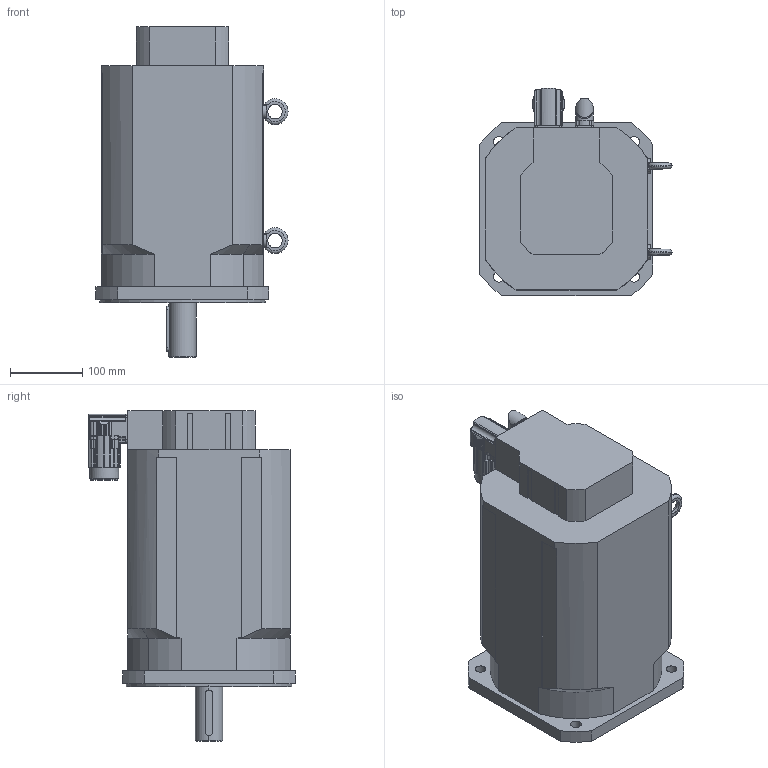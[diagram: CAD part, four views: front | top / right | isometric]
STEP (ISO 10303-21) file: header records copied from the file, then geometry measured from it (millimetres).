
FILE_DESCRIPTION(('STEP AP203'),'2;1');
FILE_NAME('MT8-0400_B.stp','2006-08-28T20:34:11',(''),(''),'2005.2.102','THINKDESIGN','');
FILE_SCHEMA(('CONFIG_CONTROL_DESIGN'));
Length unit declared in the file: millimetre
Bounding box: 266.5 x 287.18 x 459 mm (x, y, z)
Volume: 16722246.6 mm3; surface area: 465960.4 mm2
Topology: 5 solids, 5 shells, 534 faces, 1442 edges, 929 vertices
Faces by surface type: cylinder 259, plane 194, bspline 81
Full cylindrical faces by diameter (mm): 20 x1, 23 x1, 29 x1, 37.8 x1, 40 x1
Entity records: 19287 total; most frequent: CARTESIAN_POINT 5926, ORIENTED_EDGE 2872, DIRECTION 2774, EDGE_CURVE 1436, AXIS2_PLACEMENT_3D 1055, VERTEX_POINT 929, VECTOR 664, LINE 664
